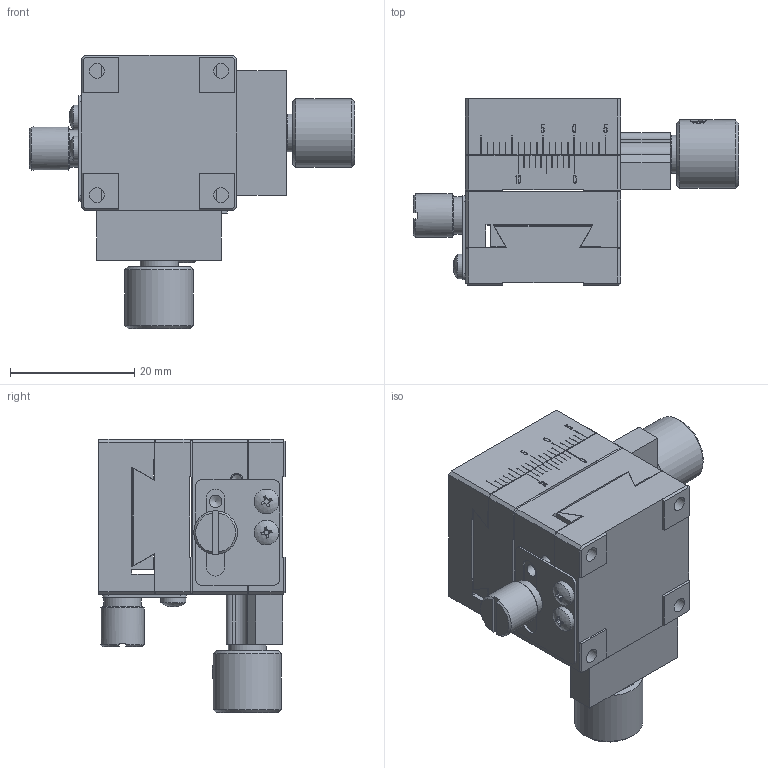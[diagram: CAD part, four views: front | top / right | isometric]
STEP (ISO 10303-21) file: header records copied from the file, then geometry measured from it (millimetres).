
FILE_DESCRIPTION (( 'STEP AP203' ), '1' );
FILE_NAME ('BFB25.STEP', '2024-07-31T02:33:35', ( 'Windows User' ), ( 'P R C' ), 'SwSTEP 2.0', 'SolidWorks 2024', '' );
FILE_SCHEMA (( 'CONFIG_CONTROL_DESIGN' ));
Length unit declared in the file: millimetre
Products named in the file (1): BFB25
Bounding box: 52.4 x 30 x 44 mm (x, y, z)
Volume: 20267.9 mm3; surface area: 19318.2 mm2
Topology: 28 solids, 28 shells, 1274 faces, 3282 edges, 2130 vertices
Faces by surface type: plane 840, cylinder 176, bspline 138, cone 112, sphere 4, torus 4
Full cylindrical faces by diameter (mm): 1.6 x20, 2 x4, 2.05 x14, 2.1 x2, 2.4 x8, 2.5 x14, 2.9 x6, 3 x4, 4 x18, 4.1 x2, 4.2 x4, 4.4 x2, 4.5 x6, 4.7 x4, 6 x4, 6.094 x2, 6.9 x2, 7 x2, 7.5 x2, 11 x2
Entity records: 49933 total; most frequent: CARTESIAN_POINT 21785, ORIENTED_EDGE 5924, DIRECTION 4996, EDGE_CURVE 2962, VERTEX_POINT 2038, LINE 1750, VECTOR 1750, EDGE_LOOP 1640
